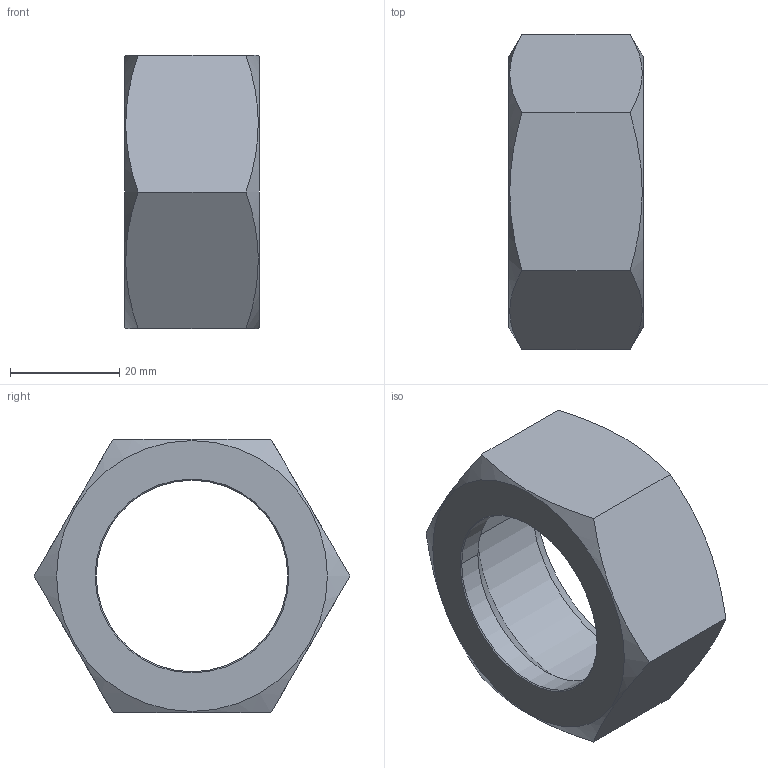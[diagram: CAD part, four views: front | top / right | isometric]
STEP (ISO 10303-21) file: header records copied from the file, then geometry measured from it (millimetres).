
FILE_DESCRIPTION((''),'2;1');
FILE_NAME('100212.stp','2006-03-06T15:11:06',('Dario Falcomer'),('CAST S.p.A.'),'AutoCAD STEP 2000i','AutoCAD 2000i',', , ');
FILE_SCHEMA(('CONFIG_CONTROL_DESIGN'));
Length unit declared in the file: millimetre
Products named in the file (2): 100212.0; CHIAVE_DADI#0
Assembly tree (1 placements, depth 2):
  100212.0
    CHIAVE_DADI#0
Bounding box: 24.5 x 57.73 x 50 mm (x, y, z)
Volume: 20063.9 mm3; surface area: 9141.4 mm2
Topology: 1 solids, 1 shells, 22 faces, 52 edges, 32 vertices
Faces by surface type: cone 10, plane 8, cylinder 4
Entity records: 725 total; most frequent: CARTESIAN_POINT 140, ORIENTED_EDGE 104, DIRECTION 100, EDGE_CURVE 52, AXIS2_PLACEMENT_3D 40, VERTEX_POINT 32, EDGE_LOOP 24, FACE_OUTER_BOUND 22
